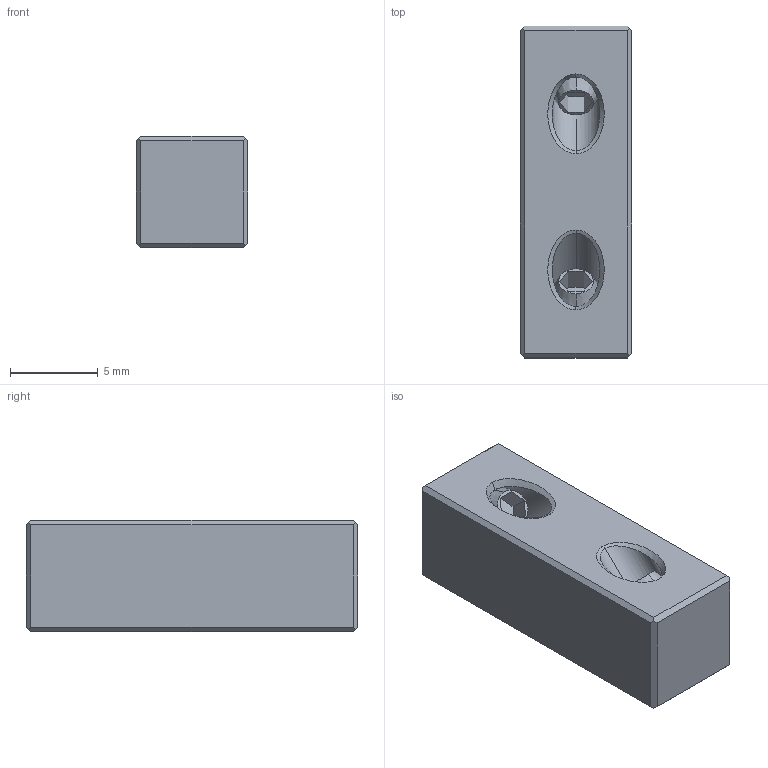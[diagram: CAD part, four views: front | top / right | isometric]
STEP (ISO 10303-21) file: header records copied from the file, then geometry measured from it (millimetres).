
FILE_DESCRIPTION((''),'2;1');
FILE_NAME('RMC-0011','2007-09-26T',('glafferty'),('Pleasant Precision, Inc. (419)675-0556'),'PRO/ENGINEER BY PARAMETRIC TECHNOLOGY CORPORATION, 2006080','PRO/ENGINEER BY PARAMETRIC TECHNOLOGY CORPORATION, 2006080','');
FILE_SCHEMA(('CONFIG_CONTROL_DESIGN'));
Length unit declared in the file: inch
Products named in the file (1): RMC-0011
Bounding box: 6.35 x 18.9 x 6.35 mm (x, y, z)
Volume: 734.7 mm3; surface area: 587.9 mm2
Topology: 1 solids, 1 shells, 46 faces, 112 edges, 72 vertices
Faces by surface type: plane 34, bspline 4, cylinder 4, cone 4
Entity records: 1824 total; most frequent: CARTESIAN_POINT 722, ORIENTED_EDGE 224, DIRECTION 196, EDGE_CURVE 112, VECTOR 96, LINE 96, VERTEX_POINT 72, AXIS2_PLACEMENT_3D 50
